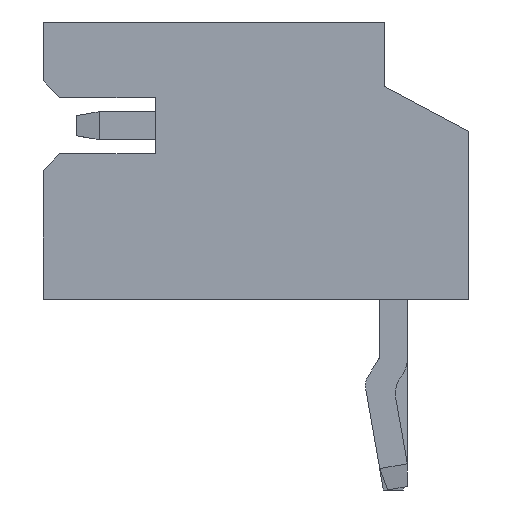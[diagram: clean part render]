
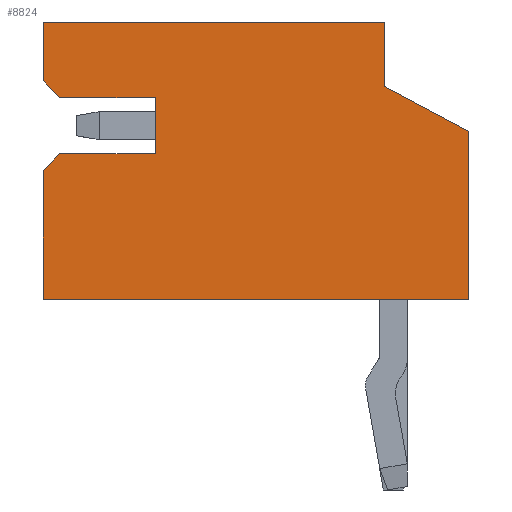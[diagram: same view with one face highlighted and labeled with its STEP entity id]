
A CAD part, left-side view. The second image highlights one B-rep face of the part: STEP entity #8824.
In plain terms, the highlighted planar face has unit normal (-1, 0, 0).
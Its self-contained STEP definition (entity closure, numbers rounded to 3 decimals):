
#79=DIRECTION('',(0.,0.,1.));
#80=VECTOR('',#79,1.15);
#81=CARTESIAN_POINT('',(-9.,0.,1.325));
#82=LINE('',#81,#80);
#127=DIRECTION('',(0.,1.,0.));
#128=VECTOR('',#127,6.1);
#129=CARTESIAN_POINT('',(-9.,0.,2.475));
#130=LINE('',#129,#128);
#1919=DIRECTION('',(0.,-0.707,0.707));
#1920=VECTOR('',#1919,0.424);
#1921=CARTESIAN_POINT('',(-9.,6.1,-0.175));
#1922=LINE('',#1921,#1920);
#1923=DIRECTION('',(0.,-1.,0.));
#1924=VECTOR('',#1923,1.7);
#1925=CARTESIAN_POINT('',(-9.,5.8,0.125));
#1926=LINE('',#1925,#1924);
#1927=DIRECTION('',(0.,0.707,0.707));
#1928=VECTOR('',#1927,0.424);
#1929=CARTESIAN_POINT('',(-9.,5.8,1.125));
#1930=LINE('',#1929,#1928);
#1931=DIRECTION('',(0.,0.,1.));
#1932=VECTOR('',#1931,1.05);
#1933=CARTESIAN_POINT('',(-9.,6.1,1.425));
#1934=LINE('',#1933,#1932);
#1935=DIRECTION('',(0.,-0.882,-0.471));
#1936=VECTOR('',#1935,1.7);
#1937=CARTESIAN_POINT('',(-9.,0.,1.325));
#1938=LINE('',#1937,#1936);
#1939=DIRECTION('',(0.,0.,-1.));
#1940=VECTOR('',#1939,3.);
#1941=CARTESIAN_POINT('',(-9.,-1.5,0.525));
#1942=LINE('',#1941,#1940);
#1943=DIRECTION('',(0.,0.,1.));
#1944=VECTOR('',#1943,2.3);
#1945=CARTESIAN_POINT('',(-9.,6.1,-2.475));
#1946=LINE('',#1945,#1944);
#1947=DIRECTION('',(0.,0.,-1.));
#1948=VECTOR('',#1947,1.);
#1949=CARTESIAN_POINT('',(-9.,4.1,1.125));
#1950=LINE('',#1949,#1948);
#1955=DIRECTION('',(0.,-1.,0.));
#1956=VECTOR('',#1955,1.7);
#1957=CARTESIAN_POINT('',(-9.,5.8,1.125));
#1958=LINE('',#1957,#1956);
#1979=DIRECTION('',(0.,-1.,0.));
#1980=VECTOR('',#1979,7.6);
#1981=CARTESIAN_POINT('',(-9.,6.1,-2.475));
#1982=LINE('',#1981,#1980);
#5145=CARTESIAN_POINT('',(-9.,0.,1.325));
#5146=VERTEX_POINT('',#5145);
#5147=CARTESIAN_POINT('',(-9.,0.,2.475));
#5148=VERTEX_POINT('',#5147);
#5335=CARTESIAN_POINT('',(-9.,5.8,0.125));
#5336=VERTEX_POINT('',#5335);
#5337=CARTESIAN_POINT('',(-9.,6.1,-0.175));
#5338=VERTEX_POINT('',#5337);
#5339=CARTESIAN_POINT('',(-9.,4.1,0.125));
#5340=VERTEX_POINT('',#5339);
#5341=CARTESIAN_POINT('',(-9.,4.1,1.125));
#5342=VERTEX_POINT('',#5341);
#5343=CARTESIAN_POINT('',(-9.,5.8,1.125));
#5344=VERTEX_POINT('',#5343);
#5345=CARTESIAN_POINT('',(-9.,6.1,1.425));
#5346=VERTEX_POINT('',#5345);
#5347=CARTESIAN_POINT('',(-9.,6.1,2.475));
#5348=VERTEX_POINT('',#5347);
#5349=CARTESIAN_POINT('',(-9.,-1.5,0.525));
#5350=VERTEX_POINT('',#5349);
#5351=CARTESIAN_POINT('',(-9.,-1.5,-2.475));
#5352=VERTEX_POINT('',#5351);
#5353=CARTESIAN_POINT('',(-9.,6.1,-2.475));
#5354=VERTEX_POINT('',#5353);
#8800=CARTESIAN_POINT('',(-9.,0.,-2.475));
#8801=DIRECTION('',(-1.,0.,0.));
#8802=DIRECTION('',(0.,0.,1.));
#8803=AXIS2_PLACEMENT_3D('',#8800,#8801,#8802);
#8804=PLANE('',#8803);
#8805=ORIENTED_EDGE('',*,*,#8633,.T.);
#8806=ORIENTED_EDGE('',*,*,#8649,.T.);
#8808=ORIENTED_EDGE('',*,*,#8807,.F.);
#8810=ORIENTED_EDGE('',*,*,#8809,.F.);
#8811=ORIENTED_EDGE('',*,*,#8790,.T.);
#8812=ORIENTED_EDGE('',*,*,#8780,.T.);
#8813=ORIENTED_EDGE('',*,*,#6889,.F.);
#8814=ORIENTED_EDGE('',*,*,#6846,.F.);
#8816=ORIENTED_EDGE('',*,*,#8815,.T.);
#8818=ORIENTED_EDGE('',*,*,#8817,.T.);
#8820=ORIENTED_EDGE('',*,*,#8819,.F.);
#8821=ORIENTED_EDGE('',*,*,#8284,.T.);
#8822=EDGE_LOOP('',(#8805,#8806,#8808,#8810,#8811,#8812,#8813,#8814,#8816,#8818,
#8820,#8821));
#8823=FACE_OUTER_BOUND('',#8822,.F.);
#6846=EDGE_CURVE('',#5146,#5148,#82,.T.);
#6889=EDGE_CURVE('',#5148,#5348,#130,.T.);
#8284=EDGE_CURVE('',#5354,#5338,#1946,.T.);
#8633=EDGE_CURVE('',#5338,#5336,#1922,.T.);
#8649=EDGE_CURVE('',#5336,#5340,#1926,.T.);
#8780=EDGE_CURVE('',#5346,#5348,#1934,.T.);
#8790=EDGE_CURVE('',#5344,#5346,#1930,.T.);
#8807=EDGE_CURVE('',#5342,#5340,#1950,.T.);
#8809=EDGE_CURVE('',#5344,#5342,#1958,.T.);
#8815=EDGE_CURVE('',#5146,#5350,#1938,.T.);
#8817=EDGE_CURVE('',#5350,#5352,#1942,.T.);
#8819=EDGE_CURVE('',#5354,#5352,#1982,.T.);
#8824=ADVANCED_FACE('',(#8823),#8804,.T.);
